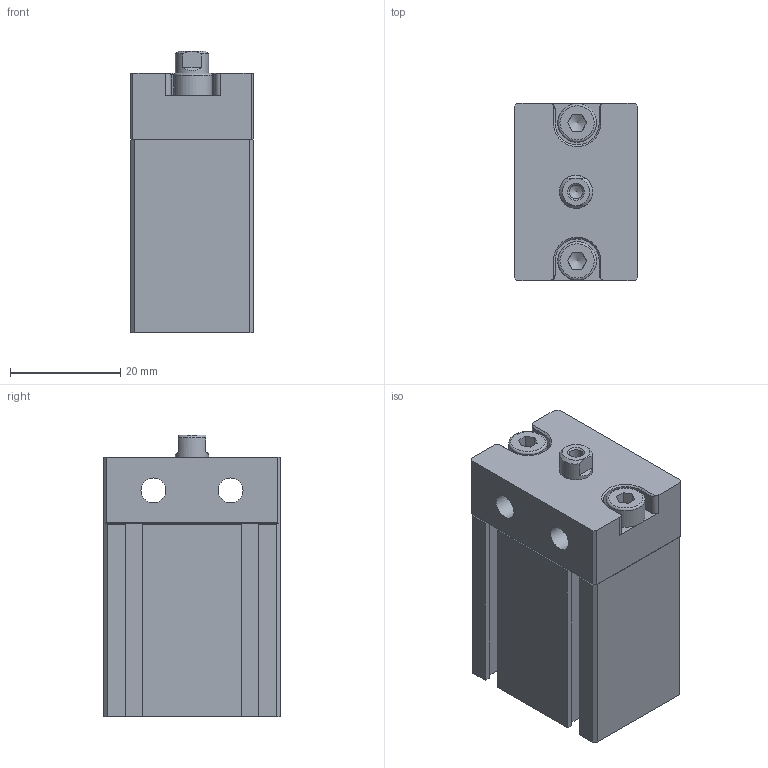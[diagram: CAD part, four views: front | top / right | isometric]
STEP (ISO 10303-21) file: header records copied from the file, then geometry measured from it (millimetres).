
FILE_DESCRIPTION((''),'2;1');
FILE_NAME('I:\3D電子目錄\氣缸\ND\ND\ND16\ND16x10.stp','2007-07-23T18:50:48',('Administrator'),(''),'Autodesk Inventor 11','Autodesk Inventor 11','');
FILE_SCHEMA(('AUTOMOTIVE_DESIGN { 1 0 10303 214 1 1 1 1 }'));
Length unit declared in the file: millimetre
Products named in the file (4): ND16; R 形環 18; ISO 4762 M4 x 10
Assembly tree (4 placements, depth 2):
  ND16
    ND16
    R 形環 18
    ISO 4762 M4 x 10  x2
Bounding box: 22.4 x 32.1 x 51 mm (x, y, z)
Volume: 28558.2 mm3; surface area: 10994.6 mm2
Topology: 5 solids, 5 shells, 170 faces, 408 edges, 261 vertices
Faces by surface type: plane 109, cylinder 26, cone 16, bspline 16, torus 3
Full cylindrical faces by diameter (mm): 1.5 x4, 4 x2, 4.5 x2, 6 x1, 7 x2, 10 x1, 18 x1, 19 x1
Entity records: 4537 total; most frequent: CARTESIAN_POINT 968, DIRECTION 708, ORIENTED_EDGE 668, EDGE_CURVE 334, AXIS2_PLACEMENT_3D 236, VECTOR 236, LINE 236, VERTEX_POINT 234
